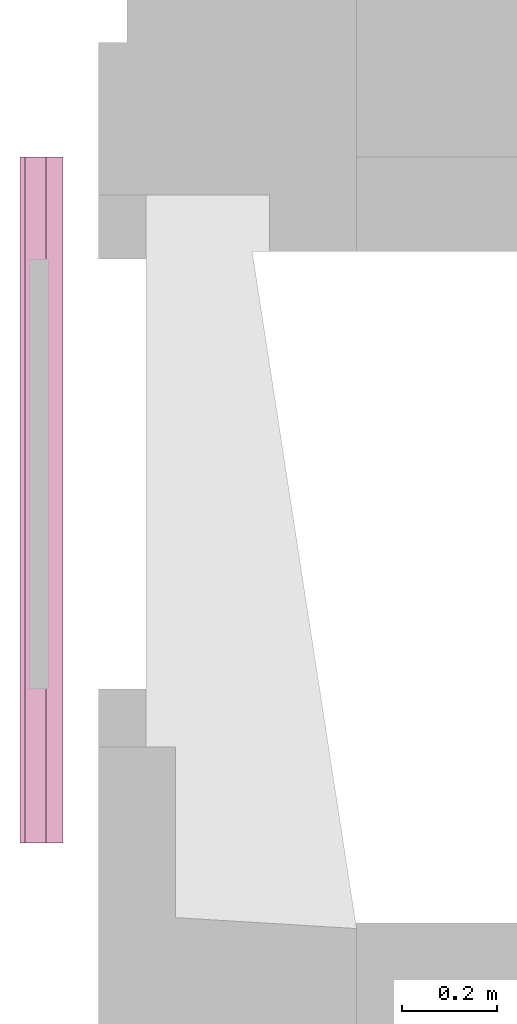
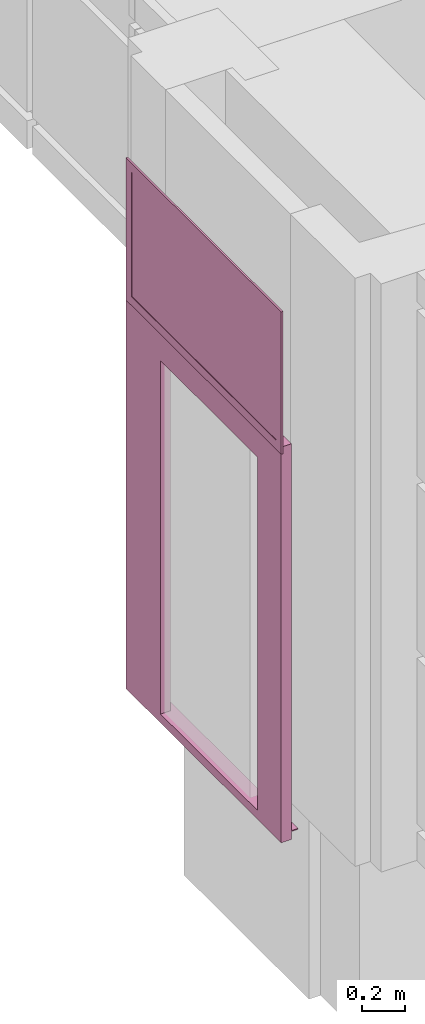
# One storey, part 73 of 73: 2 transport elements.
"""IFC2X3 building model written with IfcOpenShell, lengths in millimetres."""

from ifc_helpers import new_model, entity, si_unit, converted_unit, derived_unit, direction, frame, frame_2d, origin, origin_2d_with_axis, place, context, subcontext, project, spatial, polyline, rectangle, outline, extrude, source, transform, mapped, material, material_list, type_object, type_shapes, element, save


model = new_model("IFC2X3")

# Units and contexts
model_context = context("Model", 3, precision=0.01, world=origin(), true_north=direction((6.12303176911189e-17, 1.0)))
body_context = subcontext(model_context, "Body", "Model", "MODEL_VIEW")
ifc_project = project(units=[si_unit("LENGTHUNIT", "METRE", prefix="MILLI"), si_unit("AREAUNIT", "SQUARE_METRE"), si_unit("VOLUMEUNIT", "CUBIC_METRE"), converted_unit("PLANEANGLEUNIT", "DEGREE", entity("IfcRatioMeasure", 0.0174532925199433), si_unit("PLANEANGLEUNIT", "RADIAN"), dimensions=[0, 0, 0, 0, 0, 0, 0]), si_unit("MASSUNIT", "GRAM", prefix="KILO"), derived_unit("MASSDENSITYUNIT", [(si_unit("MASSUNIT", "GRAM", prefix="KILO"), 1), (si_unit("LENGTHUNIT", "METRE"), -3)]), si_unit("TIMEUNIT", "SECOND"), si_unit("FREQUENCYUNIT", "HERTZ"), si_unit("THERMODYNAMICTEMPERATUREUNIT", "DEGREE_CELSIUS"), derived_unit("THERMALTRANSMITTANCEUNIT", [(si_unit("MASSUNIT", "GRAM", prefix="KILO"), 1), (si_unit("THERMODYNAMICTEMPERATUREUNIT", "KELVIN"), -1), (si_unit("TIMEUNIT", "SECOND"), -3)]), derived_unit("VOLUMETRICFLOWRATEUNIT", [(si_unit("LENGTHUNIT", "METRE"), 3), (si_unit("TIMEUNIT", "SECOND"), -1)]), si_unit("ELECTRICCURRENTUNIT", "AMPERE"), si_unit("ELECTRICVOLTAGEUNIT", "VOLT"), si_unit("POWERUNIT", "WATT"), si_unit("FORCEUNIT", "NEWTON", prefix="KILO"), si_unit("ILLUMINANCEUNIT", "LUX"), si_unit("LUMINOUSFLUXUNIT", "LUMEN"), si_unit("LUMINOUSINTENSITYUNIT", "CANDELA"), derived_unit("USERDEFINED", [(si_unit("MASSUNIT", "GRAM", prefix="KILO"), -1), (si_unit("LENGTHUNIT", "METRE"), -2), (si_unit("TIMEUNIT", "SECOND"), 3), (si_unit("LUMINOUSFLUXUNIT", "LUMEN"), 1)]), derived_unit("LINEARVELOCITYUNIT", [(si_unit("LENGTHUNIT", "METRE"), 1), (si_unit("TIMEUNIT", "SECOND"), -1)]), si_unit("PRESSUREUNIT", "PASCAL"), derived_unit("USERDEFINED", [(si_unit("LENGTHUNIT", "METRE"), -2), (si_unit("MASSUNIT", "GRAM", prefix="KILO"), 1), (si_unit("TIMEUNIT", "SECOND"), -2)])], contexts=[model_context])

# Site, building, storey
site_placement = place(None, frame((-151.875543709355, 2715.0, 0.0)))
site = spatial("IfcSite", under=ifc_project, at=site_placement, Name="Surface", CompositionType="ELEMENT")
building_placement = place(site_placement, origin())
building = spatial("IfcBuilding", under=site, at=building_placement, CompositionType="ELEMENT")
storey_placement = place(building_placement, frame((0.0, 0.0, 6730.43000000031)))
storey = spatial("IfcBuildingStorey", under=building, at=storey_placement, Name="3 korrus", CompositionType="ELEMENT", Elevation=6730.43000000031)

# Transport element
ifc_material_1 = material(Name="Kalea_RAL_9016")
transport_element_type_1 = type_object("IfcTransportElementType", Name="1100 x 1467 - Left hinged", PredefinedType="NOTDEFINED", material=ifc_material_1)
shared_shape_1 = source(origin(), body_context, "Body", "SweptSolid", [
    extrude(outline(polyline([(-31.6666666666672, -31.6666666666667), (18.3333333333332, -31.6666666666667), (18.3333333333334, 58.3333333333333), (13.3333333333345, 58.3333333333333), (13.3333333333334, -26.6666666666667), (-31.6666666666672, -26.6666666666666), (-31.6666666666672, -31.6666666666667)])), frame((0.0, -31.6666666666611, 31.6666666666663), z_axis=(1.0, 0.0, 0.0), x_axis=(0.0, 0.0, 1.0)), (0.0, 0.0, 1.0), 1440.0),
    extrude(outline(polyline([(-720.0, -1120.0), (720.0, -1120.0), (720.0, 1120.0), (-720.0, 1120.0), (-720.0, -1120.0)]), holes=[polyline([(-500.0, -930.0), (-500.0, 1070.0), (400.0, 1070.0), (400.0, -930.0), (-500.0, -930.0)])]), frame((720.0, -55.0, 1120.0), z_axis=(0.0, 1.0, 0.0), x_axis=(1.0, 0.0, 0.0)), (0.0, 0.0, 1.0), 55.0),
])
type_shapes(transport_element_type_1, [shared_shape_1])
transport_element_1_placement = place(storey_placement, frame((-706.883383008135, 4570.0, -50.0), z_axis=(0.0, 0.0, 1.0), x_axis=(0.0, 1.0, 0.0)))
element("IfcTransportElement", 1, at=transport_element_1_placement, inside=storey, type_object=transport_element_type_1, material=ifc_material_1, Name="A-side_Door_EI60G:1100 x 1467 - Left hinged", ObjectType="1100 x 1467 - Left hinged", CapacityByNumber=0.0, CapacityByWeight=0.0, OperationType="NOTDEFINED", context=body_context, shape_type="MappedRepresentation", body=[
    mapped(shared_shape_1, transform((0.0, 0.0, 0.0), scale=1.0)),
])

# Space
space_placement = place(storey_placement, origin())
space = spatial("IfcSpace", under=storey, at=space_placement, Name="303", CompositionType="ELEMENT", InteriorOrExteriorSpace="INTERNAL")

# Transport element
ifc_material_2 = material(Name="Kalea_glass")
ifc_material_3 = material(Name="Kalea_glass_black")
ifc_material_list_1 = material_list([ifc_material_2, ifc_material_3, ifc_material_1])
ifc_material_list_2 = material_list([ifc_material_2, ifc_material_3, ifc_material_1])
transport_element_type_2 = type_object("IfcTransportElementType", Name="1100 x 1467 - 805", PredefinedType="NOTDEFINED", material=ifc_material_list_2)
shared_shape_2 = source(origin(), body_context, "Body", "SweptSolid", [
    extrude(rectangle(XDim=4.0, YDim=1020.0, at=origin_2d_with_axis()), frame((880.0, 15.0, 50.0), z_axis=(0.0, 0.0, 1.0), x_axis=(0.0, 1.0, 0.0)), (0.0, 0.0, 1.0), 705.0),
    extrude(rectangle(XDim=4.0, YDim=320.0, at=frame_2d((-2.1094237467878e-15, -1.4210854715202e-14), x_axis=(1.0, 0.0))), frame((210.0, 15.0, 50.0), z_axis=(0.0, 0.0, 1.0), x_axis=(0.0, 1.0, 0.0)), (0.0, 0.0, 1.0), 705.0),
    extrude(outline(polyline([(-720.0, -402.500000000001), (720.0, -402.500000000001), (720.0, 402.500000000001), (-720.0, 402.500000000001), (-720.0, -402.500000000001)]), holes=[polyline([(-670.0, -352.499999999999), (-670.0, 352.500000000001), (670.0, 352.500000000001), (670.0, -352.499999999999), (-670.0, -352.499999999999)])]), frame((720.0, 10.0, 402.500000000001), z_axis=(0.0, 1.0, 0.0), x_axis=(1.0, 0.0, 0.0)), (0.0, 0.0, 1.0), 9.99999999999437),
])
type_shapes(transport_element_type_2, [shared_shape_2])
transport_element_2_placement = place(space_placement, frame((-716.883383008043, 6010.0, 2149.5699999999), z_axis=(0.0, 0.0, 1.0), x_axis=(0.0, -1.0, 0.0)))
element("IfcTransportElement", 2, at=transport_element_2_placement, inside=space, type_object=transport_element_type_2, material=ifc_material_list_1, Name="A-side_Glass Panel:1100 x 1467 - 805", ObjectType="1100 x 1467 - 805", CapacityByNumber=0.0, CapacityByWeight=0.0, OperationType="NOTDEFINED", context=body_context, shape_type="MappedRepresentation", body=[
    mapped(shared_shape_2, transform((0.0, 0.0, 0.0), scale=1.0)),
])

save(model, "model.ifc")
